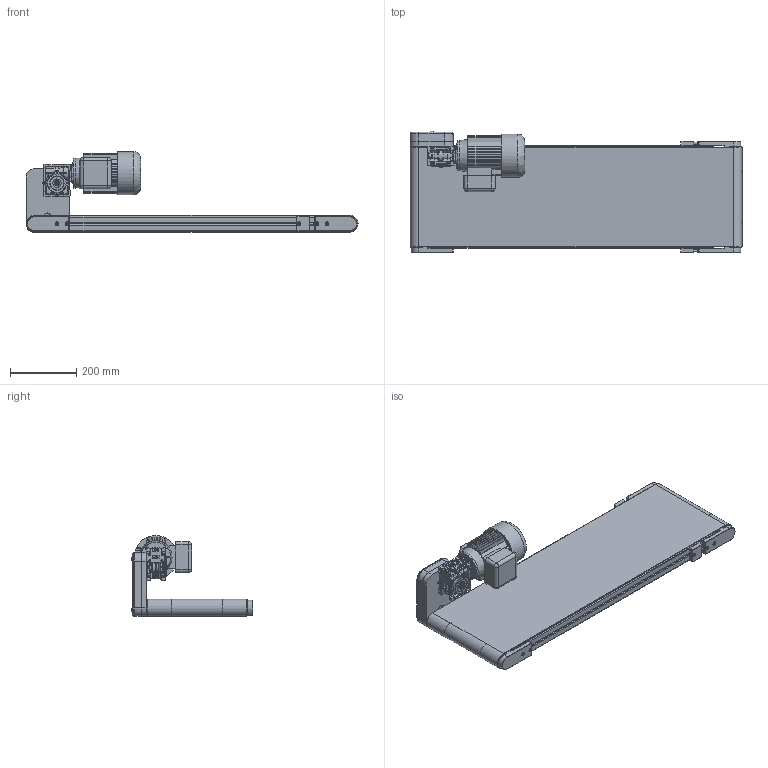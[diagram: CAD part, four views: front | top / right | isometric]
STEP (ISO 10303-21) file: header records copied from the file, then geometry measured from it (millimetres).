
FILE_DESCRIPTION (( 'STEP AP214' ), '1' );
FILE_NAME ('TB52 300X1000 DEPORTE A GAUCHE.STEP', '2022-10-10T14:09:24', ( '' ), ( '' ), 'SwSTEP 2.0', 'SolidWorks 2022', '' );
FILE_SCHEMA (( 'AUTOMOTIVE_DESIGN' ));
Length unit declared in the file: millimetre
Products named in the file (32): 983-009G; RONDELLE_910-110; 982-022; 982-012-180W; 983-002; 983-001; 910-227-25; CHASSIS TB52_Défaut<Brut d''usinage>; 940-033MALE TB52; TH_910-167; CHC THE_910-065H; 910-010; TB52 300X1000 DEPORTE A GAUCHE; RONDELLE_910-225; 940-033MAILLON TB52; 982-019; 982-001B_982-001B-300; 982-003; 982-021 + CHAINE; BHC_910-224-8; CLAVETTE_910-226; 982-021; TH_910-229; TH_910-167-25; 982-000; 982-018G2; 940-033 MAILLON TB52 X; 940-033FEMELLE TB52; 982-020; 982-011; 982-008; 945-056
Assembly tree (72 placements, depth 5):
  TB52 300X1000 DEPORTE A GAUCHE
    CHASSIS TB52_Défaut<Brut d''usinage>
    983-002  x2
      982-008
      TH_910-167
      CHC THE_910-065H
      910-010
    982-001B_982-001B-300  x2
    983-001  x3
      982-000
      982-003
      CHC THE_910-065H
      910-010
    983-009G
      945-056
      982-019
      982-020
      982-021 + CHAINE  x2
        982-021
        940-033MALE TB52
        940-033FEMELLE TB52
      982-022
      982-003
      TH_910-167-25  x3
      940-033 MAILLON TB52 X  x2
        940-033MAILLON TB52
          940-033MALE TB52
          940-033FEMELLE TB52
      940-033MAILLON TB52
        940-033MALE TB52
        940-033FEMELLE TB52
      BHC_910-224-8  x5
      910-227-25  x2
      CLAVETTE_910-226  x4
      CHC THE_910-065H  x2
      910-010  x2
      RONDELLE_910-110  x3
      RONDELLE_910-225  x3
      982-011
      TH_910-229  x4
      982-018G2
      982-012-180W
Bounding box: 1000 x 365.8 x 243.5 mm (x, y, z)
Volume: 9196226.8 mm3; surface area: 3415339.2 mm2
Topology: 104 solids, 109 shells, 3482 faces, 8612 edges, 5634 vertices
Faces by surface type: plane 1994, cylinder 982, cone 306, bspline 128, torus 72
Full cylindrical faces by diameter (mm): 3 x5, 3.242 x1, 3.66 x120, 4.2 x15, 5 x23, 5.3 x3, 5.5 x2, 5.98 x10, 6 x15, 6.4 x3, 6.5 x10, 7 x4, 7.3 x6, 7.75 x30, 8 x5, 9.5 x5, 10 x10, 11 x11, 12 x3, 14 x3, 15 x9, 16 x4, 20 x3, 21 x10, 24 x4, 25 x2, 29 x8, 30 x2, 31 x4, 35 x10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
Entity records: 70604 total; most frequent: CARTESIAN_POINT 18805, ORIENTED_EDGE 9672, DIRECTION 8737, EDGE_CURVE 4836, VECTOR 3367, LINE 3367, VERTEX_POINT 3268, AXIS2_PLACEMENT_3D 2685
